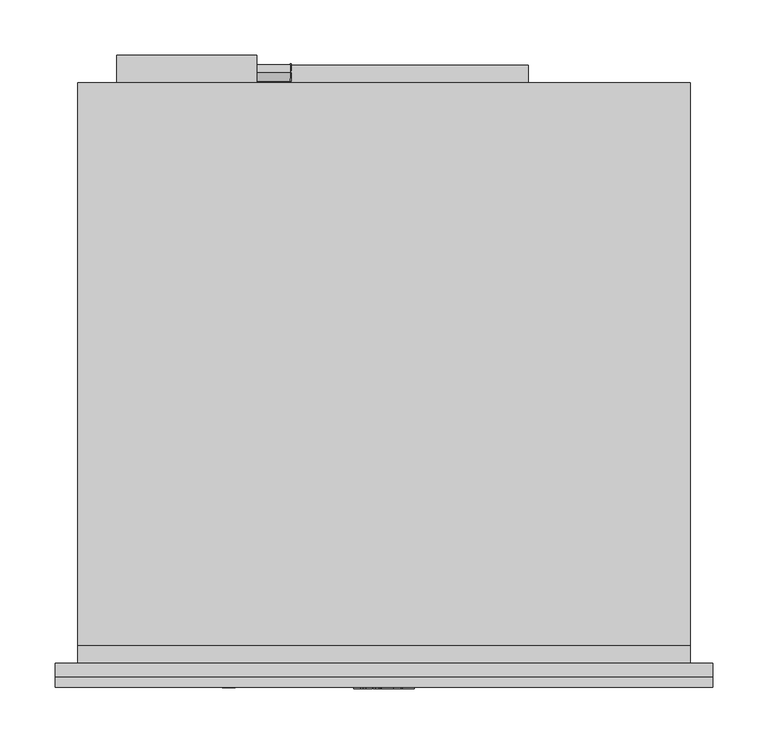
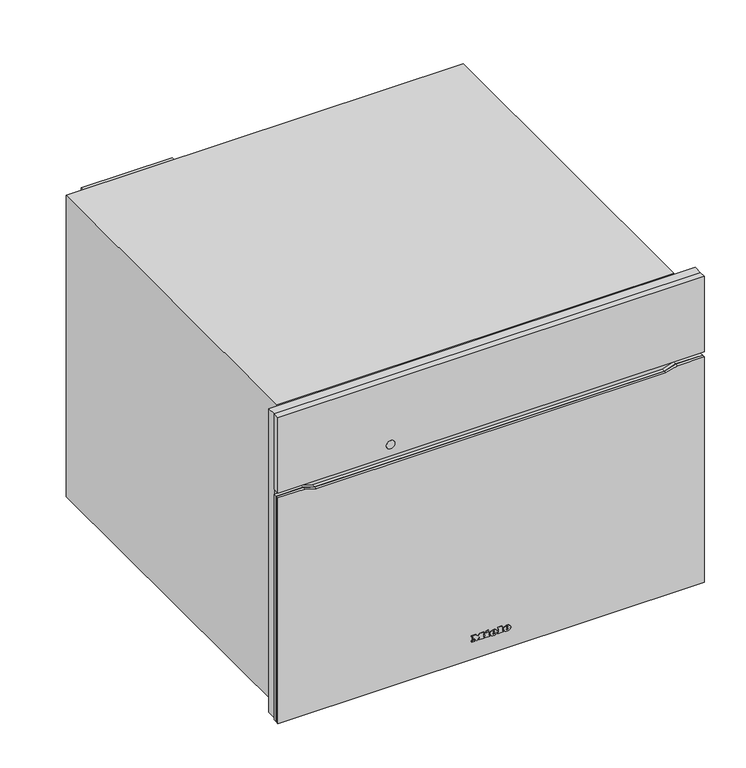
"""IFC4 building model written with IfcOpenShell, lengths in millimetres: proxy geometry, 11117450_CH_H7840BMX_GRGR : 22784076_CH_11117450_H7840BMX_GRGR."""

from ifc_helpers import new_model, si_unit, point, frame, frame_2d, origin, place, context, project, spatial, polyline, circle_curve, ellipse_curve, trimmed, segment, composite_curve, outline, extrude, faceted_brep, source, transform, mapped, element, save
from ifc_brep_helpers import plane_surface, cylinder_surface, revolved_surface, extruded_surface, advanced_brep


def specialty_equipment_6da7d189(model_context):
    return source(origin(), model_context, "Body", "SolidModel", [
        advanced_brep(
        [(21.28, -23.0, 32.133), (21.28, -23.0, 33.042), (27.301, -23.0, 33.042), (16.825, -23.0, 33.042), (19.3, -23.0, 30.0), (27.148, -23.0, 32.133), (24.43, -23.0, 32.133), (22.288, -23.0, 31.125), (21.28, -23.0, 34.194), (21.28, -23.0, 35.175), (22.819, -23.0, 35.175), (22.819, -23.0, 34.194), (21.28, -22.0, 32.133), (22.288, -22.0, 31.125), (24.43, -22.0, 32.133), (27.148, -22.0, 32.133), (19.3, -22.0, 30.0), (16.825, -22.0, 33.042), (27.301, -22.0, 33.042), (21.28, -22.0, 33.042), (21.28, -22.0, 34.194), (22.819, -22.0, 34.194), (22.819, -22.0, 35.175), (21.28, -22.0, 35.175)],
        [
            (0, 1),
            (1, 2),
            (2, 3, ellipse_curve(frame((22.063, -23.0, 33.042), z_axis=(0.0, -1.0, 0.0), x_axis=(-1.0, 0.0, 0.0)), 5.238, 4.329)),
            (3, 4, circle_curve(frame((20.3080491, -23.0, 33.348), z_axis=(0.0, -1.0, 0.0), x_axis=(0.0, 0.0, -1.0)), 3.4964649)),
            (4, 5, circle_curve(frame((21.9581428, -23.0, 35.724), z_axis=(0.0, -1.0, 0.0), x_axis=(0.0, 0.0, -1.0)), 6.3110933)),
            (5, 6),
            (6, 7, circle_curve(frame((22.7279412, -23.0, 32.97), z_axis=(0.0, 1.0, 0.0), x_axis=(0.0, 0.0, -1.0)), 1.896727)),
            (7, 0, circle_curve(frame((22.288, -23.0, 32.133), z_axis=(0.0, 1.0, 0.0), x_axis=(0.0, 0.0, -1.0)), 1.008)),
            (8, 9),
            (9, 10, circle_curve(frame((22.0495, -23.0, 35.175), z_axis=(0.0, 1.0, 0.0), x_axis=(0.0, 0.0, -1.0)), 0.7695)),
            (10, 11),
            (11, 8),
            (12, 13, circle_curve(frame((22.288, -22.0, 32.133), z_axis=(0.0, -1.0, 0.0), x_axis=(0.0, 0.0, -1.0)), 1.008)),
            (13, 14, circle_curve(frame((22.7279412, -22.0, 32.97), z_axis=(0.0, -1.0, 0.0), x_axis=(0.0, 0.0, -1.0)), 1.896727)),
            (14, 15),
            (15, 16, circle_curve(frame((21.9581428, -22.0, 35.724), z_axis=(0.0, 1.0, 0.0), x_axis=(0.0, 0.0, -1.0)), 6.3110933)),
            (16, 17, circle_curve(frame((20.3080491, -22.0, 33.348), z_axis=(0.0, 1.0, 0.0), x_axis=(0.0, 0.0, -1.0)), 3.4964649)),
            (17, 18, ellipse_curve(frame((22.063, -22.0, 33.042), z_axis=(0.0, 1.0, 0.0), x_axis=(-1.0, 0.0, 0.0)), 5.238, 4.329)),
            (18, 19),
            (19, 12),
            (20, 21),
            (21, 22),
            (22, 23, circle_curve(frame((22.0495, -22.0, 35.175), z_axis=(0.0, -1.0, 0.0), x_axis=(0.0, 0.0, -1.0)), 0.7695)),
            (23, 20),
            (0, 12),
            (19, 1),
            (18, 2),
            (5, 15),
            (14, 6),
            (17, 3),
            (13, 7),
            (16, 4),
            (8, 20),
            (23, 9),
            (22, 10),
            (21, 11),
        ],
        [
            plane_surface(frame((21.28, -23.0, 33.042), z_axis=(0.0, -1.0, 0.0), x_axis=(0.0, 0.0, 1.0))),
            plane_surface(frame((21.28, -22.0, 33.042), z_axis=(0.0, 1.0, 0.0), x_axis=(0.0, 0.0, -1.0))),
            plane_surface(frame((21.28, -23.0, 32.133), z_axis=(1.0, 0.0, 0.0), x_axis=(0.0, 1.0, 0.0))),
            plane_surface(frame((21.28, -23.0, 33.042), z_axis=(0.0, 0.0, -1.0), x_axis=(0.0, 1.0, 0.0))),
            plane_surface(frame((27.148, -23.0, 32.133), z_axis=(0.0, 0.0, 1.0), x_axis=(0.0, 1.0, 0.0))),
            extruded_surface(trimmed(ellipse_curve(frame((22.063, -21.0, 33.042), z_axis=(0.0, -1.0, 0.0), x_axis=(-1.0, 0.0, 0.0)), 5.238, 4.329), [point((27.301, -21.0, 33.042))], [point((16.825, -21.0, 33.042))], True, "CARTESIAN"), (0.0, -1.0, 0.0), 1.0),
            revolved_surface(polyline([(22.7279412, -22.0, 31.073273), (22.7279412, -23.0, 31.073273)]), (22.7279412, -22.0, 32.97), (0.0, 1.0, 0.0)),
            revolved_surface(polyline([(22.288, -22.0, 31.125000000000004), (22.288, -23.0, 31.125000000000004)]), (22.288, -22.0, 32.133), (0.0, 1.0, 0.0)),
            cylinder_surface(frame((20.3080491, -22.0, 33.348), z_axis=(0.0, -1.0, 0.0), x_axis=(0.0, 0.0, -1.0)), 3.4964649),
            cylinder_surface(frame((21.9581428, -22.0, 35.724), z_axis=(0.0, -1.0, 0.0), x_axis=(0.0, 0.0, -1.0)), 6.3110933),
            plane_surface(frame((21.28, -23.0, 34.194), z_axis=(1.0, 0.0, 0.0), x_axis=(0.0, 1.0, 0.0))),
            revolved_surface(polyline([(22.0495, -22.0, 34.405499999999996), (22.0495, -23.0, 34.405499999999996)]), (22.0495, -22.0, 35.175), (0.0, 1.0, 0.0)),
            plane_surface(frame((22.819, -23.0, 35.175), z_axis=(-1.0, 0.0, 0.0), x_axis=(0.0, 1.0, 0.0))),
            plane_surface(frame((22.819, -23.0, 34.194), z_axis=(0.0, 0.0, 1.0), x_axis=(0.0, 1.0, 0.0))),
        ],
        [
            (0, [[1, 2, 3, 4, 5, 6, 7, 8], [9, 10, 11, 12]]),
            (1, [[13, 14, 15, 16, 17, 18, 19, 20], [21, 22, 23, 24]]),
            (2, [[-1, 25, -20, 26]]),
            (3, [[-2, -26, -19, 27]]),
            (4, [[-6, 28, -15, 29]]),
            (5, [[-3, -27, -18, 30]]),
            (6, [[-7, -29, -14, 31]]),
            (7, [[-8, -31, -13, -25]]),
            (8, [[-4, -30, -17, 32]]),
            (9, [[-5, -32, -16, -28]]),
            (10, [[-9, 33, -24, 34]]),
            (11, [[-10, -34, -23, 35]]),
            (12, [[-11, -35, -22, 36]]),
            (13, [[-12, -36, -21, -33]]),
        ],
    ),
        advanced_brep(
        [(2.497, -23.0, 32.133), (2.497, -23.0, 33.042), (8.518, -23.0, 33.042), (-1.958, -23.0, 33.042), (0.517, -23.0, 30.0), (8.365, -23.0, 32.133), (5.647, -23.0, 32.133), (3.505, -23.0, 31.125), (2.497, -23.0, 34.194), (2.497, -23.0, 35.175), (4.036, -23.0, 35.175), (4.036, -23.0, 34.194), (2.497, -22.0, 32.133), (3.505, -22.0, 31.125), (5.647, -22.0, 32.133), (8.365, -22.0, 32.133), (0.517, -22.0, 30.0), (-1.958, -22.0, 33.042), (8.518, -22.0, 33.042), (2.497, -22.0, 33.042), (2.497, -22.0, 34.194), (4.036, -22.0, 34.194), (4.036, -22.0, 35.175), (2.497, -22.0, 35.175)],
        [
            (0, 1),
            (1, 2),
            (2, 3, ellipse_curve(frame((3.28, -23.0, 33.042), z_axis=(0.0, -1.0, 0.0), x_axis=(-1.0, 0.0, 0.0)), 5.238, 4.329)),
            (3, 4, circle_curve(frame((1.5250491, -23.0, 33.348), z_axis=(0.0, -1.0, 0.0), x_axis=(0.0, 0.0, -1.0)), 3.4964649)),
            (4, 5, circle_curve(frame((3.1751428, -23.0, 35.724), z_axis=(0.0, -1.0, 0.0), x_axis=(0.0, 0.0, -1.0)), 6.3110933)),
            (5, 6),
            (6, 7, circle_curve(frame((3.9449412, -23.0, 32.97), z_axis=(0.0, 1.0, 0.0), x_axis=(0.0, 0.0, -1.0)), 1.896727)),
            (7, 0, circle_curve(frame((3.505, -23.0, 32.133), z_axis=(0.0, 1.0, 0.0), x_axis=(0.0, 0.0, -1.0)), 1.008)),
            (8, 9),
            (9, 10, circle_curve(frame((3.2665, -23.0, 35.175), z_axis=(0.0, 1.0, 0.0), x_axis=(0.0, 0.0, -1.0)), 0.7695)),
            (10, 11),
            (11, 8),
            (12, 13, circle_curve(frame((3.505, -22.0, 32.133), z_axis=(0.0, -1.0, 0.0), x_axis=(0.0, 0.0, -1.0)), 1.008)),
            (13, 14, circle_curve(frame((3.9449412, -22.0, 32.97), z_axis=(0.0, -1.0, 0.0), x_axis=(0.0, 0.0, -1.0)), 1.896727)),
            (14, 15),
            (15, 16, circle_curve(frame((3.1751428, -22.0, 35.724), z_axis=(0.0, 1.0, 0.0), x_axis=(0.0, 0.0, -1.0)), 6.3110933)),
            (16, 17, circle_curve(frame((1.5250491, -22.0, 33.348), z_axis=(0.0, 1.0, 0.0), x_axis=(0.0, 0.0, -1.0)), 3.4964649)),
            (17, 18, ellipse_curve(frame((3.28, -22.0, 33.042), z_axis=(0.0, 1.0, 0.0), x_axis=(-1.0, 0.0, 0.0)), 5.238, 4.329)),
            (18, 19),
            (19, 12),
            (20, 21),
            (21, 22),
            (22, 23, circle_curve(frame((3.2665, -22.0, 35.175), z_axis=(0.0, -1.0, 0.0), x_axis=(0.0, 0.0, -1.0)), 0.7695)),
            (23, 20),
            (0, 12),
            (19, 1),
            (18, 2),
            (5, 15),
            (14, 6),
            (17, 3),
            (13, 7),
            (16, 4),
            (8, 20),
            (23, 9),
            (22, 10),
            (21, 11),
        ],
        [
            plane_surface(frame((2.497, -23.0, 33.042), z_axis=(0.0, -1.0, 0.0), x_axis=(0.0, 0.0, 1.0))),
            plane_surface(frame((2.497, -22.0, 33.042), z_axis=(0.0, 1.0, 0.0), x_axis=(0.0, 0.0, -1.0))),
            plane_surface(frame((2.497, -23.0, 32.133), z_axis=(1.0, 0.0, 0.0), x_axis=(0.0, 1.0, 0.0))),
            plane_surface(frame((2.497, -23.0, 33.042), z_axis=(0.0, 0.0, -1.0), x_axis=(0.0, 1.0, 0.0))),
            plane_surface(frame((8.365, -23.0, 32.133), z_axis=(0.0, 0.0, 1.0), x_axis=(0.0, 1.0, 0.0))),
            extruded_surface(trimmed(ellipse_curve(frame((3.28, -21.0, 33.042), z_axis=(0.0, -1.0, 0.0), x_axis=(-1.0, 0.0, 0.0)), 5.238, 4.329), [point((8.518, -21.0, 33.042))], [point((-1.958, -21.0, 33.042))], True, "CARTESIAN"), (0.0, -1.0, 0.0), 1.0),
            revolved_surface(polyline([(3.9449412, -22.0, 31.073273), (3.9449412, -23.0, 31.073273)]), (3.9449412, -22.0, 32.97), (0.0, 1.0, 0.0)),
            revolved_surface(polyline([(3.505, -22.0, 31.125000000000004), (3.505, -23.0, 31.125000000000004)]), (3.505, -22.0, 32.133), (0.0, 1.0, 0.0)),
            cylinder_surface(frame((1.5250491, -22.0, 33.348), z_axis=(0.0, -1.0, 0.0), x_axis=(0.0, 0.0, -1.0)), 3.4964649),
            cylinder_surface(frame((3.1751428, -22.0, 35.724), z_axis=(0.0, -1.0, 0.0), x_axis=(0.0, 0.0, -1.0)), 6.3110933),
            plane_surface(frame((2.497, -23.0, 34.194), z_axis=(1.0, 0.0, 0.0), x_axis=(0.0, 1.0, 0.0))),
            revolved_surface(polyline([(3.2665, -22.0, 34.405499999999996), (3.2665, -23.0, 34.405499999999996)]), (3.2665, -22.0, 35.175), (0.0, 1.0, 0.0)),
            plane_surface(frame((4.036, -23.0, 35.175), z_axis=(-1.0, 0.0, 0.0), x_axis=(0.0, 1.0, 0.0))),
            plane_surface(frame((4.036, -23.0, 34.194), z_axis=(0.0, 0.0, 1.0), x_axis=(0.0, 1.0, 0.0))),
        ],
        [
            (0, [[1, 2, 3, 4, 5, 6, 7, 8], [9, 10, 11, 12]]),
            (1, [[13, 14, 15, 16, 17, 18, 19, 20], [21, 22, 23, 24]]),
            (2, [[-1, 25, -20, 26]]),
            (3, [[-2, -26, -19, 27]]),
            (4, [[-6, 28, -15, 29]]),
            (5, [[-3, -27, -18, 30]]),
            (6, [[-7, -29, -14, 31]]),
            (7, [[-8, -31, -13, -25]]),
            (8, [[-4, -30, -17, 32]]),
            (9, [[-5, -32, -16, -28]]),
            (10, [[-9, 33, -24, 34]]),
            (11, [[-10, -34, -23, 35]]),
            (12, [[-11, -35, -22, 36]]),
            (13, [[-12, -36, -21, -33]]),
        ],
    ),
        extrude(outline(polyline([(38.469, -7.34), (37.011, -6.656), (38.433, -3.605), (39.891, -4.28), (38.469, -7.34)])), frame((0.0, -23.0, 0.0), z_axis=(0.0, 1.0, 0.0), x_axis=(0.0, 0.0, 1.0)), (0.0, 0.0, 1.0), 1.0),
        extrude(outline(polyline([(36.813, -9.563), (35.202, -9.563), (35.202, -8.492), (31.512, -8.492), (31.512, -9.563), (30.0, -9.563), (30.0, -2.462), (31.512, -2.462), (31.512, -3.506), (36.813, -3.506), (36.813, -9.563)])), frame((0.0, -23.0, 0.0), z_axis=(0.0, 1.0, 0.0), x_axis=(0.0, 0.0, 1.0)), (0.0, 0.0, 1.0), 1.0),
        extrude(outline(polyline([(37.533, 9.022), (37.533, 10.102), (31.512, 10.102), (31.512, 9.022), (30.0, 9.022), (30.0, 16.321), (31.512, 16.321), (31.512, 15.214), (39.0, 15.214), (39.0, 9.022), (37.533, 9.022)])), frame((0.0, -23.0, 0.0), z_axis=(0.0, 1.0, 0.0), x_axis=(0.0, 0.0, 1.0)), (0.0, 0.0, 1.0), 1.0),
        extrude(outline(polyline([(37.533, -27.5), (37.533, -26.411), (31.512, -26.411), (31.512, -27.5), (30.0, -27.5), (30.0, -23.54), (31.512, -23.54), (31.512, -24.62), (35.3341247, -24.62), (30.0, -20.597), (35.4402223, -16.556), (31.512, -16.556), (31.512, -17.663), (30.0, -17.663), (30.0, -10.481), (31.512, -10.481), (31.512, -11.624), (37.533, -11.624), (37.533, -10.481), (39.0, -10.481), (39.0, -15.962), (35.625, -18.59), (39.0, -21.227), (39.0, -27.5), (37.533, -27.5)])), frame((0.0, -23.0, 0.0), z_axis=(0.0, 1.0, 0.0), x_axis=(0.0, 0.0, 1.0)), (0.0, 0.0, 1.0), 1.0),
        extrude(outline(polyline([(337.0, -297.5), (4.0, -297.5), (4.0, 297.5), (337.0, 297.5), (337.0, 260.3542631), (332.0, 244.0), (332.0, -244.0), (337.0, -260.3542631), (337.0, -297.5)])), frame((0.0, -18.0, 0.0), z_axis=(0.0, 1.0, 0.0), x_axis=(0.0, 0.0, 1.0)), (0.0, 0.0, 1.0), 5.0),
        extrude(outline(polyline([(337.0, -297.5), (4.0, -297.5), (4.0, 297.5), (337.0, 297.5), (337.0, 260.3542631), (332.0, 244.0), (332.0, -244.0), (337.0, -260.3542631), (337.0, -297.5)])), frame((0.0, -22.0, 0.0), z_axis=(0.0, 1.0, 0.0), x_axis=(0.0, 0.0, 1.0)), (0.0, 0.0, 1.0), 4.0),
        extrude(outline(polyline([(297.5, -22.0), (-297.5, -22.0), (-297.5, -13.0), (297.5, -13.0), (297.5, -22.0)])), frame((0.0, 0.0, 344.0), z_axis=(0.0, 0.0, 1.0), x_axis=(1.0, 0.0, 0.0)), (0.0, 0.0, 1.0), 111.5),
        extrude(outline(composite_curve([segment(trimmed(circle_curve(frame_2d((361.0, -140.5745637)), 6.0), [point((361.0, -146.5745637))], [point((361.0, -134.5745637))], False, "CARTESIAN"), True, "CONTINUOUS"), segment(trimmed(circle_curve(frame_2d((361.0, -140.5745637)), 6.0), [point((361.0, -134.5745637))], [point((361.0, -146.5745637))], False, "CARTESIAN"), True, "CONTINUOUS")], self_intersect=False)), frame((0.0, -22.5, 0.0), z_axis=(0.0, 1.0, 0.0), x_axis=(0.0, 0.0, 1.0)), (0.0, 0.0, 1.0), 1.0),
        extrude(outline(polyline([(526.6176075, 348.0006785), (526.6176075, 358.0471554), (533.8434473, 358.0471554), (533.8434473, 356.7922128), (527.8818689, 356.7922128), (527.8818689, 353.8127064), (533.5308134, 353.8127064), (533.5308134, 352.551833), (527.8785103, 352.551833), (527.8785103, 349.2552921), (534.0086943, 349.2552921), (534.0086943, 348.0006785), (526.6176075, 348.0006785)])), frame((-85.0, 0.0, 0.0), z_axis=(1.0, 0.0, 0.0), x_axis=(0.0, 1.0, 0.0)), (0.0, 0.0, 1.0), 1.0),
        extrude(outline(polyline([(535.8834538, 348.0032098), (535.8834538, 358.0486697), (537.1384639, 358.0486697), (537.1384639, 349.2559157), (542.1633067, 349.2559157), (542.1633067, 348.0032098), (535.8834538, 348.0032098)])), frame((-85.0, 0.0, 0.0), z_axis=(1.0, 0.0, 0.0), x_axis=(0.0, 1.0, 0.0)), (0.0, 0.0, 1.0), 1.0),
        extrude(outline(composite_curve([segment(trimmed(circle_curve(frame_2d((534.0, 353.0)), 7.5), [point((534.0, 345.5))], [point((534.0, 360.5))], False, "CARTESIAN"), True, "CONTINUOUS"), segment(trimmed(circle_curve(frame_2d((534.0, 353.0)), 7.5), [point((534.0, 360.5))], [point((534.0, 345.5))], False, "CARTESIAN"), True, "CONTINUOUS")], self_intersect=False)), frame((-115.0, 0.0, 0.0), z_axis=(1.0, 0.0, 0.0), x_axis=(0.0, 1.0, 0.0)), (0.0, 0.0, 1.0), 30.0),
        extrude(outline(polyline([(-115.0, 525.0), (-242.0, 525.0), (-242.0, 550.0), (-115.0, 550.0), (-115.0, 525.0)])), frame((0.0, 0.0, 325.0), z_axis=(0.0, 0.0, 1.0), x_axis=(1.0, 0.0, 0.0)), (0.0, 0.0, 1.0), 103.0),
        extrude(outline(polyline([(130.5, 525.0), (-130.5, 525.0), (-130.5, 541.0), (130.5, 541.0), (130.5, 525.0)])), frame((0.0, 0.0, 36.0), z_axis=(0.0, 0.0, 1.0), x_axis=(1.0, 0.0, 0.0)), (0.0, 0.0, 1.0), 261.0),
        faceted_brep([(272.5, 17.0, 344.0), (-272.5, 17.0, 344.0), (-272.5, 17.0, 7.0), (272.5, 17.0, 7.0), (-230.0, 17.0, 295.0), (230.0, 17.0, 295.0), (230.0, 17.0, 60.0), (-230.0, 17.0, 60.0), (272.5, 0.0, 344.0), (-272.5, 0.0, 344.0), (-272.5, 0.0, 7.0), (272.5, 0.0, 7.0), (277.0, 0.0, 0.0), (277.0, 525.0, 0.0), (277.0, 525.0, 444.5), (277.0, 16.0, 444.5), (277.0, 16.0, 439.5), (277.0, 0.0, 439.5), (-277.0, 16.0, 444.5), (-277.0, 525.0, 444.5), (-277.0, 525.0, 0.0), (-277.0, 0.0, 0.0), (-277.0, 0.0, 439.5), (-277.0, 16.0, 439.5), (230.0, 412.0, 295.0), (-230.0, 412.0, 295.0), (-230.0, 412.0, 60.0), (230.0, 412.0, 60.0)], [[[0, 1, 2, 3], [4, 5, 6, 7]], [[1, 0, 8, 9]], [[2, 1, 9, 10]], [[0, 3, 11, 8]], [[12, 13, 14, 15, 16, 17]], [[18, 19, 20, 21, 22, 23]], [[13, 12, 21, 20]], [[14, 13, 20, 19]], [[15, 14, 19, 18]], [[21, 12, 17, 22], [9, 8, 11, 10]], [[24, 25, 26, 27]], [[25, 24, 5, 4]], [[26, 25, 4, 7]], [[27, 26, 7, 6]], [[24, 27, 6, 5]], [[3, 2, 10, 11]], [[16, 23, 22, 17]], [[23, 16, 15, 18]]]),
        extrude(outline(polyline([(7.0, 297.5), (455.5, 297.5), (455.5, -297.5), (7.0, -297.5), (7.0, -272.5), (344.0, -272.5), (344.0, 272.5), (7.0, 272.5), (7.0, 297.5)])), frame((0.0, -13.0, 0.0), z_axis=(0.0, 1.0, 0.0), x_axis=(0.0, 0.0, 1.0)), (0.0, 0.0, 1.0), 13.0),
    ])


if __name__ == "__main__":
    model = new_model("IFC4")
    model_context = context("Model", 3, world=origin())
    ifc_project = project(units=[si_unit("LENGTHUNIT", "METRE", prefix="MILLI")], contexts=[model_context])
    site = spatial("IfcSite", under=ifc_project)
    building = spatial("IfcBuilding", under=site)
    placement = place(None, origin())
    specialty_equipment_shape = specialty_equipment_6da7d189(model_context)
    element("IfcBuildingElementProxy", 1, Name="11117450_CH_H7840BMX_GRGR : 22784076_CH_11117450_H7840BMX_GRGR", ObjectType="11117450_CH_H7840BMX_GRGR : 22784076_CH_11117450_H7840BMX_GRGR", at=placement, inside=building, context=model_context, shape_type="MappedRepresentation", body=[
        mapped(specialty_equipment_shape, transform((0.0, 0.0, 0.0), x_axis=(1.0, 0.0, 0.0), y_axis=(0.0, 1.0, 0.0), z_axis=(0.0, 0.0, 1.0))),
    ])
    save(model, "model.ifc")
